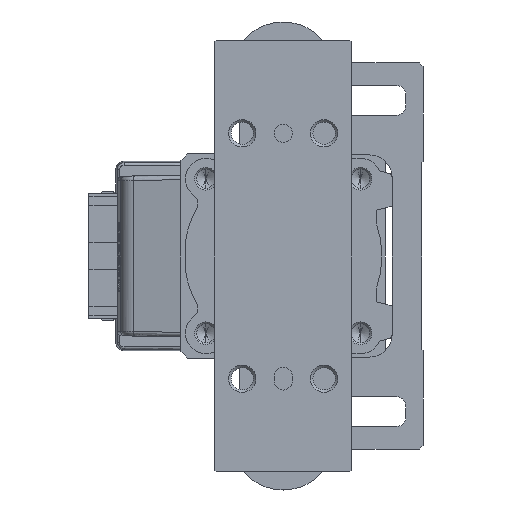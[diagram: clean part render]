
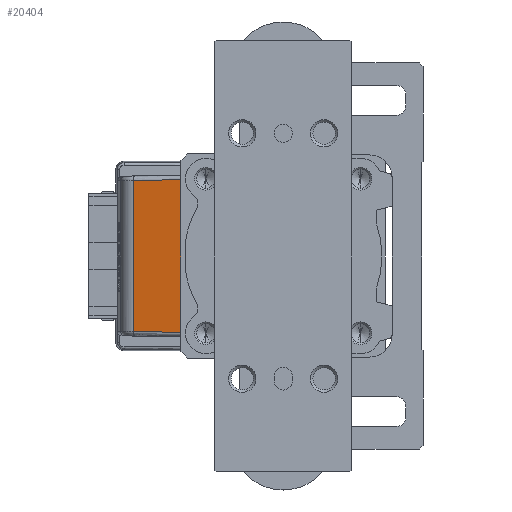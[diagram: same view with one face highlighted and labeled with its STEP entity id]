
A CAD part, left-side view. The second image highlights one B-rep face of the part: STEP entity #20404.
In plain terms, the highlighted planar face has unit normal (-0.985, 0.174, 0) as drawn and (0, 0.174, 0.985) by its records, which use the part's own axes.
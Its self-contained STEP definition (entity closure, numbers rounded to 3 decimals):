
#9 = CARTESIAN_POINT ( 'NONE',  ( 0., 21.26, -38.323 ) ) ;
#1644 = EDGE_CURVE ( 'NONE', #38173, #18021, #1874, .T. ) ;
#1874 = LINE ( 'NONE', #24560, #9765 ) ;
#3811 = EDGE_CURVE ( 'NONE', #24032, #34220, #15901, .T. ) ;
#6710 = PLANE ( 'NONE',  #39066 ) ;
#7133 = DIRECTION ( 'NONE',  ( 0., -0.174, -0.985 ) ) ;
#8704 = LINE ( 'NONE', #33607, #14464 ) ;
#9765 = VECTOR ( 'NONE', #37180, 1000. ) ;
#11804 = VECTOR ( 'NONE', #38737, 1000. ) ;
#12067 = VECTOR ( 'NONE', #40628, 1000. ) ;
#12569 = FACE_OUTER_BOUND ( 'NONE', #28351, .T. ) ;
#12625 = LINE ( 'NONE', #33986, #12067 ) ;
#13133 = CARTESIAN_POINT ( 'NONE',  ( -16.825, 21., -38.277 ) ) ;
#13617 = CARTESIAN_POINT ( 'NONE',  ( -17.568, 32.922, -40.379 ) ) ;
#13880 = EDGE_CURVE ( 'NONE', #34220, #38173, #8704, .T. ) ;
#14464 = VECTOR ( 'NONE', #14539, 1000. ) ;
#14539 = DIRECTION ( 'NONE',  ( -0.017, -0.985, 0.174 ) ) ;
#14870 = CARTESIAN_POINT ( 'NONE',  ( 16.825, 21., -38.277 ) ) ;
#15901 = LINE ( 'NONE', #13617, #11804 ) ;
#16438 = CARTESIAN_POINT ( 'NONE',  ( -16.617, 32.922, -40.379 ) ) ;
#17740 = ORIENTED_EDGE ( 'NONE', *, *, #13880, .T. ) ;
#18021 = VERTEX_POINT ( 'NONE', #14870 ) ;
#20404 = ADVANCED_FACE ( 'NONE', ( #12569 ), #6710, .F. ) ;
#23502 = CARTESIAN_POINT ( 'NONE',  ( 16.617, 32.922, -40.379 ) ) ;
#24032 = VERTEX_POINT ( 'NONE', #23502 ) ;
#24560 = CARTESIAN_POINT ( 'NONE',  ( 0., 21., -38.277 ) ) ;
#27730 = ORIENTED_EDGE ( 'NONE', *, *, #1644, .T. ) ;
#28351 = EDGE_LOOP ( 'NONE', ( #32054, #17740, #27730, #31200 ) ) ;
#31200 = ORIENTED_EDGE ( 'NONE', *, *, #40635, .T. ) ;
#32042 = DIRECTION ( 'NONE',  ( 1., 0., 0. ) ) ;
#32054 = ORIENTED_EDGE ( 'NONE', *, *, #3811, .T. ) ;
#33607 = CARTESIAN_POINT ( 'NONE',  ( -16.825, 20.983, -38.274 ) ) ;
#33986 = CARTESIAN_POINT ( 'NONE',  ( 16.617, 32.905, -40.376 ) ) ;
#34220 = VERTEX_POINT ( 'NONE', #16438 ) ;
#37180 = DIRECTION ( 'NONE',  ( 1., 0., 0. ) ) ;
#38173 = VERTEX_POINT ( 'NONE', #13133 ) ;
#38737 = DIRECTION ( 'NONE',  ( -1., 0., 0. ) ) ;
#39066 = AXIS2_PLACEMENT_3D ( 'NONE', #9, #7133, #32042 ) ;
#40628 = DIRECTION ( 'NONE',  ( -0.017, 0.985, -0.174 ) ) ;
#40635 = EDGE_CURVE ( 'NONE', #18021, #24032, #12625, .T. ) ;
